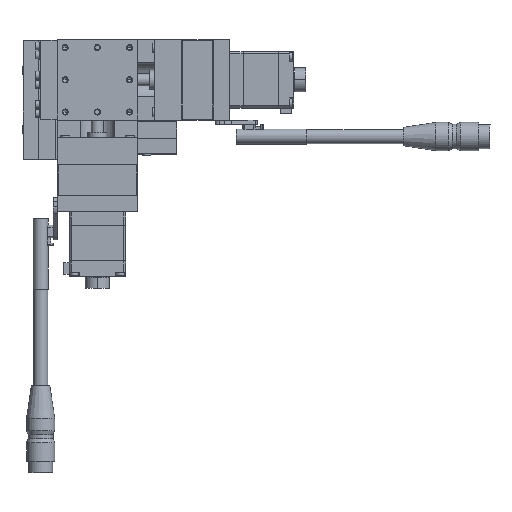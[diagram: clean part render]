
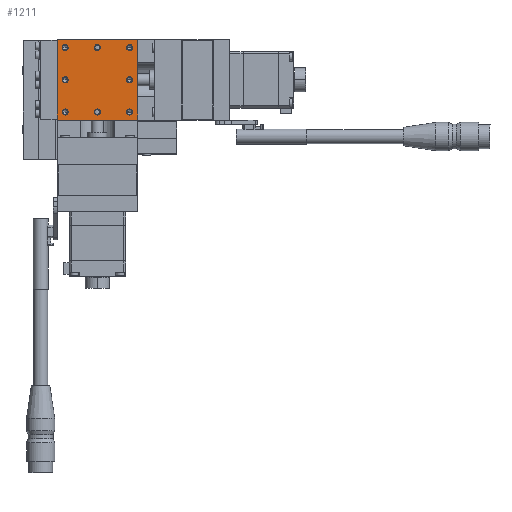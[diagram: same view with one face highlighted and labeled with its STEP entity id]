
A CAD part, top view. The second image highlights one B-rep face of the part: STEP entity #1211.
In plain terms, the highlighted planar face has unit normal (0, 0, 1).
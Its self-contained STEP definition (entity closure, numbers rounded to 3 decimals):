
#1211=ADVANCED_FACE('',(#3023,#3024,#3025,#3026,#3027,#3028,#3029,#3030,#3031),#3032,.F.);
#3023=FACE_BOUND('',#5427,.T.);
#3024=FACE_BOUND('',#5428,.T.);
#3025=FACE_BOUND('',#5429,.T.);
#3026=FACE_BOUND('',#5430,.T.);
#3027=FACE_BOUND('',#5431,.T.);
#3028=FACE_BOUND('',#5432,.T.);
#3029=FACE_BOUND('',#5433,.T.);
#3030=FACE_BOUND('',#5434,.T.);
#3031=FACE_OUTER_BOUND('',#5435,.T.);
#3032=PLANE('',#5436);
#5427=EDGE_LOOP('',(#11338,#11339));
#5428=EDGE_LOOP('',(#11340,#11341));
#5429=EDGE_LOOP('',(#11342,#11343));
#5430=EDGE_LOOP('',(#11344,#11345));
#5431=EDGE_LOOP('',(#11346,#11347));
#5432=EDGE_LOOP('',(#11348,#11349));
#5433=EDGE_LOOP('',(#11350,#11351));
#5434=EDGE_LOOP('',(#11352,#11353));
#5435=EDGE_LOOP('',(#11354,#11355,#11356,#11357));
#5436=AXIS2_PLACEMENT_3D('',#11358,#11359,#11360);
#11338=ORIENTED_EDGE('',*,*,#17056,.T.);
#11339=ORIENTED_EDGE('',*,*,#16931,.T.);
#11340=ORIENTED_EDGE('',*,*,#17057,.T.);
#11341=ORIENTED_EDGE('',*,*,#16947,.T.);
#11342=ORIENTED_EDGE('',*,*,#17058,.T.);
#11343=ORIENTED_EDGE('',*,*,#16966,.T.);
#11344=ORIENTED_EDGE('',*,*,#17017,.T.);
#11345=ORIENTED_EDGE('',*,*,#17011,.T.);
#11346=ORIENTED_EDGE('',*,*,#17059,.T.);
#11347=ORIENTED_EDGE('',*,*,#16951,.T.);
#11348=ORIENTED_EDGE('',*,*,#17060,.T.);
#11349=ORIENTED_EDGE('',*,*,#16927,.T.);
#11350=ORIENTED_EDGE('',*,*,#17061,.T.);
#11351=ORIENTED_EDGE('',*,*,#16923,.T.);
#11352=ORIENTED_EDGE('',*,*,#17062,.T.);
#11353=ORIENTED_EDGE('',*,*,#16905,.T.);
#11354=ORIENTED_EDGE('',*,*,#17063,.T.);
#11355=ORIENTED_EDGE('',*,*,#17044,.F.);
#11356=ORIENTED_EDGE('',*,*,#17064,.F.);
#11357=ORIENTED_EDGE('',*,*,#17065,.T.);
#11358=CARTESIAN_POINT('',(20.,-20.,40.0));
#11359=DIRECTION('',(0.,0.,-1.0));
#11360=DIRECTION('',(1.0,0.,0.));
#16905=EDGE_CURVE('',#20587,#20591,#20593,.T.);
#16923=EDGE_CURVE('',#20622,#20626,#20628,.T.);
#16927=EDGE_CURVE('',#20630,#20634,#20636,.T.);
#16931=EDGE_CURVE('',#20638,#20642,#20644,.T.);
#16947=EDGE_CURVE('',#20664,#20666,#20668,.T.);
#16951=EDGE_CURVE('',#20670,#20674,#20676,.T.);
#16966=EDGE_CURVE('',#20696,#20698,#20700,.T.);
#17011=EDGE_CURVE('',#20780,#20782,#20784,.T.);
#17017=EDGE_CURVE('',#20782,#20780,#20792,.T.);
#17044=EDGE_CURVE('',#20837,#20832,#20839,.T.);
#17056=EDGE_CURVE('',#20642,#20638,#20859,.T.);
#17057=EDGE_CURVE('',#20666,#20664,#20860,.T.);
#17058=EDGE_CURVE('',#20698,#20696,#20861,.T.);
#17059=EDGE_CURVE('',#20674,#20670,#20862,.T.);
#17060=EDGE_CURVE('',#20634,#20630,#20863,.T.);
#17061=EDGE_CURVE('',#20626,#20622,#20864,.T.);
#17062=EDGE_CURVE('',#20591,#20587,#20865,.T.);
#17063=EDGE_CURVE('',#20866,#20832,#20867,.T.);
#17064=EDGE_CURVE('',#20868,#20837,#20869,.T.);
#17065=EDGE_CURVE('',#20868,#20866,#20870,.T.);
#20587=VERTEX_POINT('',#26128);
#20591=VERTEX_POINT('',#26133);
#20593=CIRCLE('',#26136,1.5);
#20622=VERTEX_POINT('',#26173);
#20626=VERTEX_POINT('',#26178);
#20628=CIRCLE('',#26181,1.5);
#20630=VERTEX_POINT('',#26183);
#20634=VERTEX_POINT('',#26188);
#20636=CIRCLE('',#26191,1.5);
#20638=VERTEX_POINT('',#26193);
#20642=VERTEX_POINT('',#26198);
#20644=CIRCLE('',#26201,1.5);
#20664=VERTEX_POINT('',#26229);
#20666=VERTEX_POINT('',#26232);
#20668=CIRCLE('',#26235,1.5);
#20670=VERTEX_POINT('',#26237);
#20674=VERTEX_POINT('',#26242);
#20676=CIRCLE('',#26245,1.5);
#20696=VERTEX_POINT('',#26271);
#20698=VERTEX_POINT('',#26274);
#20700=CIRCLE('',#26277,1.5);
#20780=VERTEX_POINT('',#26377);
#20782=VERTEX_POINT('',#26380);
#20784=CIRCLE('',#26383,1.5);
#20792=CIRCLE('',#26393,1.5);
#20832=VERTEX_POINT('',#26449);
#20837=VERTEX_POINT('',#26456);
#20839=LINE('',#26459,#26460);
#20859=CIRCLE('',#26488,1.5);
#20860=CIRCLE('',#26489,1.5);
#20861=CIRCLE('',#26490,1.5);
#20862=CIRCLE('',#26491,1.5);
#20863=CIRCLE('',#26492,1.5);
#20864=CIRCLE('',#26493,1.5);
#20865=CIRCLE('',#26494,1.5);
#20866=VERTEX_POINT('',#26495);
#20867=LINE('',#26496,#26497);
#20868=VERTEX_POINT('',#26498);
#20869=LINE('',#26499,#26500);
#20870=LINE('',#26501,#26502);
#26128=CARTESIAN_POINT('',(-17.5,16.,40.0));
#26133=CARTESIAN_POINT('',(-14.5,16.,40.0));
#26136=AXIS2_PLACEMENT_3D('',#31639,#31640,#31641);
#26173=CARTESIAN_POINT('',(-17.5,0.,40.0));
#26178=CARTESIAN_POINT('',(-14.5,0.,40.0));
#26181=AXIS2_PLACEMENT_3D('',#31673,#31674,#31675);
#26183=CARTESIAN_POINT('',(-17.5,-16.,40.0));
#26188=CARTESIAN_POINT('',(-14.5,-16.,40.0));
#26191=AXIS2_PLACEMENT_3D('',#31681,#31682,#31683);
#26193=CARTESIAN_POINT('',(14.5,-16.,40.0));
#26198=CARTESIAN_POINT('',(17.5,-16.,40.0));
#26201=AXIS2_PLACEMENT_3D('',#31689,#31690,#31691);
#26229=CARTESIAN_POINT('',(14.5,0.,40.0));
#26232=CARTESIAN_POINT('',(17.5,0.,40.0));
#26235=AXIS2_PLACEMENT_3D('',#31717,#31718,#31719);
#26237=CARTESIAN_POINT('',(-1.5,16.,40.0));
#26242=CARTESIAN_POINT('',(1.5,16.,40.0));
#26245=AXIS2_PLACEMENT_3D('',#31725,#31726,#31727);
#26271=CARTESIAN_POINT('',(14.5,16.,40.0));
#26274=CARTESIAN_POINT('',(17.5,16.,40.0));
#26277=AXIS2_PLACEMENT_3D('',#31754,#31755,#31756);
#26377=CARTESIAN_POINT('',(-1.5,-16.,40.0));
#26380=CARTESIAN_POINT('',(1.5,-16.,40.0));
#26383=AXIS2_PLACEMENT_3D('',#31845,#31846,#31847);
#26393=AXIS2_PLACEMENT_3D('',#31859,#31860,#31861);
#26449=CARTESIAN_POINT('',(-20.,20.,40.0));
#26456=CARTESIAN_POINT('',(-20.,-20.,40.0));
#26459=CARTESIAN_POINT('',(-20.,-20.,40.0));
#26460=VECTOR('',#31902,1000.0);
#26488=AXIS2_PLACEMENT_3D('',#31920,#31921,#31922);
#26489=AXIS2_PLACEMENT_3D('',#31923,#31924,#31925);
#26490=AXIS2_PLACEMENT_3D('',#31926,#31927,#31928);
#26491=AXIS2_PLACEMENT_3D('',#31929,#31930,#31931);
#26492=AXIS2_PLACEMENT_3D('',#31932,#31933,#31934);
#26493=AXIS2_PLACEMENT_3D('',#31935,#31936,#31937);
#26494=AXIS2_PLACEMENT_3D('',#31938,#31939,#31940);
#26495=CARTESIAN_POINT('',(20.,20.,40.0));
#26496=CARTESIAN_POINT('',(20.,20.,40.0));
#26497=VECTOR('',#31941,1000.0);
#26498=CARTESIAN_POINT('',(20.,-20.,40.0));
#26499=CARTESIAN_POINT('',(20.,-20.,40.0));
#26500=VECTOR('',#31942,1000.0);
#26501=CARTESIAN_POINT('',(20.,-20.,40.0));
#26502=VECTOR('',#31943,1000.0);
#31639=CARTESIAN_POINT('',(-16.,16.,40.0));
#31640=DIRECTION('',(0.,0.,-1.0));
#31641=DIRECTION('',(1.0,0.,0.));
#31673=CARTESIAN_POINT('',(-16.,0.,40.0));
#31674=DIRECTION('',(0.,0.,-1.0));
#31675=DIRECTION('',(1.0,0.,0.));
#31681=CARTESIAN_POINT('',(-16.,-16.,40.0));
#31682=DIRECTION('',(0.,0.,-1.0));
#31683=DIRECTION('',(1.0,0.,0.));
#31689=CARTESIAN_POINT('',(16.,-16.,40.0));
#31690=DIRECTION('',(0.,0.,-1.0));
#31691=DIRECTION('',(1.0,0.,0.));
#31717=CARTESIAN_POINT('',(16.,0.,40.0));
#31718=DIRECTION('',(0.,0.,-1.0));
#31719=DIRECTION('',(1.0,0.,0.));
#31725=CARTESIAN_POINT('',(0.,16.0,40.0));
#31726=DIRECTION('',(0.,0.,-1.0));
#31727=DIRECTION('',(1.0,0.,0.));
#31754=CARTESIAN_POINT('',(16.,16.,40.0));
#31755=DIRECTION('',(0.,0.,-1.0));
#31756=DIRECTION('',(1.0,0.,0.));
#31845=CARTESIAN_POINT('',(0.,-16.0,40.0));
#31846=DIRECTION('',(0.,0.,-1.0));
#31847=DIRECTION('',(1.0,0.,0.));
#31859=CARTESIAN_POINT('',(0.,-16.0,40.0));
#31860=DIRECTION('',(0.,0.,-1.0));
#31861=DIRECTION('',(1.0,0.,0.));
#31902=DIRECTION('',(0.,1.0,0.0));
#31920=CARTESIAN_POINT('',(16.,-16.,40.0));
#31921=DIRECTION('',(0.,0.,-1.0));
#31922=DIRECTION('',(1.0,0.,0.));
#31923=CARTESIAN_POINT('',(16.,0.,40.0));
#31924=DIRECTION('',(0.,0.,-1.0));
#31925=DIRECTION('',(1.0,0.,0.));
#31926=CARTESIAN_POINT('',(16.,16.,40.0));
#31927=DIRECTION('',(0.,0.,-1.0));
#31928=DIRECTION('',(1.0,0.,0.));
#31929=CARTESIAN_POINT('',(0.,16.0,40.0));
#31930=DIRECTION('',(0.,0.,-1.0));
#31931=DIRECTION('',(1.0,0.,0.));
#31932=CARTESIAN_POINT('',(-16.,-16.,40.0));
#31933=DIRECTION('',(0.,0.,-1.0));
#31934=DIRECTION('',(1.0,0.,0.));
#31935=CARTESIAN_POINT('',(-16.,0.,40.0));
#31936=DIRECTION('',(0.,0.,-1.0));
#31937=DIRECTION('',(1.0,0.,0.));
#31938=CARTESIAN_POINT('',(-16.,16.,40.0));
#31939=DIRECTION('',(0.,0.,-1.0));
#31940=DIRECTION('',(1.0,0.,0.));
#31941=DIRECTION('',(-1.0,0.,0.));
#31942=DIRECTION('',(-1.0,0.,0.));
#31943=DIRECTION('',(0.,1.0,0.0));
